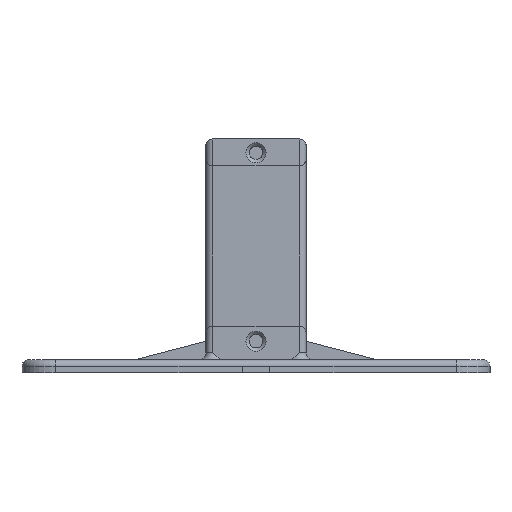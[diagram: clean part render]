
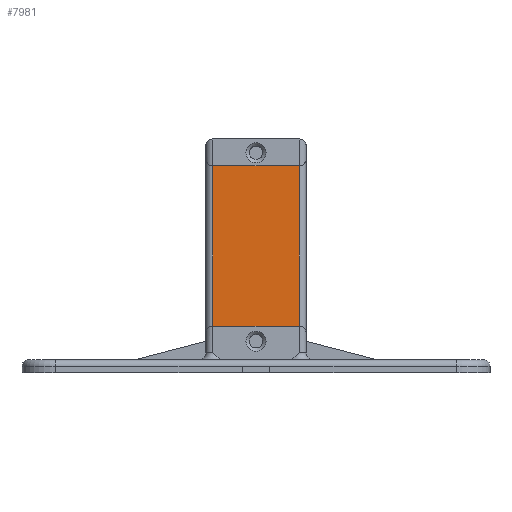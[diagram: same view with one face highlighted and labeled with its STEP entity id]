
A CAD part, left-side view. The second image highlights one B-rep face of the part: STEP entity #7981.
In plain terms, the highlighted planar face has unit normal (-1, 0, 0).
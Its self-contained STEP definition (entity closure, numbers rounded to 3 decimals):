
#3695 = PLANE('',#3696);
#3696 = AXIS2_PLACEMENT_3D('',#3697,#3698,#3699);
#3697 = CARTESIAN_POINT('',(0.,0.,7.));
#3698 = DIRECTION('',(0.,0.,1.));
#3699 = DIRECTION('',(1.,0.,0.));
#5295 = CYLINDRICAL_SURFACE('',#5296,1.);
#5296 = AXIS2_PLACEMENT_3D('',#5297,#5298,#5299);
#5297 = CARTESIAN_POINT('',(10.,6.5,35.));
#5298 = DIRECTION('',(0.,0.,1.));
#5299 = DIRECTION('',(1.,0.,0.));
#6003 = CYLINDRICAL_SURFACE('',#6004,1.);
#6004 = AXIS2_PLACEMENT_3D('',#6005,#6006,#6007);
#6005 = CARTESIAN_POINT('',(10.,-6.5,7.));
#6006 = DIRECTION('',(0.,0.,-1.));
#6007 = DIRECTION('',(-1.,0.,0.));
#6274 = EDGE_CURVE('',#6275,#6277,#6279,.T.);
#6275 = VERTEX_POINT('',#6276);
#6276 = CARTESIAN_POINT('',(9.,-6.5,7.));
#6277 = VERTEX_POINT('',#6278);
#6278 = CARTESIAN_POINT('',(9.,6.5,7.));
#6279 = SURFACE_CURVE('',#6280,(#6284,#6291),.PCURVE_S1.);
#6280 = LINE('',#6281,#6282);
#6281 = CARTESIAN_POINT('',(9.,0.,7.));
#6282 = VECTOR('',#6283,1.);
#6283 = DIRECTION('',(0.,1.,0.));
#6284 = PCURVE('',#3695,#6285);
#6285 = DEFINITIONAL_REPRESENTATION('',(#6286),#6290);
#6286 = LINE('',#6287,#6288);
#6287 = CARTESIAN_POINT('',(9.,0.));
#6288 = VECTOR('',#6289,1.);
#6289 = DIRECTION('',(0.,1.));
#6290 = ( GEOMETRIC_REPRESENTATION_CONTEXT(2) 
PARAMETRIC_REPRESENTATION_CONTEXT() REPRESENTATION_CONTEXT('2D SPACE',''
  ) );
#6291 = PCURVE('',#6292,#6297);
#6292 = PLANE('',#6293);
#6293 = AXIS2_PLACEMENT_3D('',#6294,#6295,#6296);
#6294 = CARTESIAN_POINT('',(9.,0.,35.));
#6295 = DIRECTION('',(-1.,0.,0.));
#6296 = DIRECTION('',(0.,0.,1.));
#6297 = DEFINITIONAL_REPRESENTATION('',(#6298),#6302);
#6298 = LINE('',#6299,#6300);
#6299 = CARTESIAN_POINT('',(-28.,0.));
#6300 = VECTOR('',#6301,1.);
#6301 = DIRECTION('',(0.,1.));
#6302 = ( GEOMETRIC_REPRESENTATION_CONTEXT(2) 
PARAMETRIC_REPRESENTATION_CONTEXT() REPRESENTATION_CONTEXT('2D SPACE',''
  ) );
#6789 = EDGE_CURVE('',#6790,#6277,#6792,.T.);
#6790 = VERTEX_POINT('',#6791);
#6791 = CARTESIAN_POINT('',(9.,6.5,31.));
#6792 = SURFACE_CURVE('',#6793,(#6797,#6804),.PCURVE_S1.);
#6793 = LINE('',#6794,#6795);
#6794 = CARTESIAN_POINT('',(9.,6.5,7.));
#6795 = VECTOR('',#6796,1.);
#6796 = DIRECTION('',(0.,0.,-1.));
#6797 = PCURVE('',#5295,#6798);
#6798 = DEFINITIONAL_REPRESENTATION('',(#6799),#6803);
#6799 = LINE('',#6800,#6801);
#6800 = CARTESIAN_POINT('',(3.142,-28.));
#6801 = VECTOR('',#6802,1.);
#6802 = DIRECTION('',(0.,-1.));
#6803 = ( GEOMETRIC_REPRESENTATION_CONTEXT(2) 
PARAMETRIC_REPRESENTATION_CONTEXT() REPRESENTATION_CONTEXT('2D SPACE',''
  ) );
#6804 = PCURVE('',#6292,#6805);
#6805 = DEFINITIONAL_REPRESENTATION('',(#6806),#6810);
#6806 = LINE('',#6807,#6808);
#6807 = CARTESIAN_POINT('',(-28.,6.5));
#6808 = VECTOR('',#6809,1.);
#6809 = DIRECTION('',(-1.,0.));
#6810 = ( GEOMETRIC_REPRESENTATION_CONTEXT(2) 
PARAMETRIC_REPRESENTATION_CONTEXT() REPRESENTATION_CONTEXT('2D SPACE',''
  ) );
#6899 = PLANE('',#6900);
#6900 = AXIS2_PLACEMENT_3D('',#6901,#6902,#6903);
#6901 = CARTESIAN_POINT('',(-8.002,0.,31.));
#6902 = DIRECTION('',(0.,0.,1.));
#6903 = DIRECTION('',(1.,0.,0.));
#7645 = VERTEX_POINT('',#7646);
#7646 = CARTESIAN_POINT('',(9.,-6.5,31.));
#7712 = EDGE_CURVE('',#7645,#6275,#7713,.T.);
#7713 = SURFACE_CURVE('',#7714,(#7718,#7725),.PCURVE_S1.);
#7714 = LINE('',#7715,#7716);
#7715 = CARTESIAN_POINT('',(9.,-6.5,35.));
#7716 = VECTOR('',#7717,1.);
#7717 = DIRECTION('',(0.,0.,-1.));
#7718 = PCURVE('',#6003,#7719);
#7719 = DEFINITIONAL_REPRESENTATION('',(#7720),#7724);
#7720 = LINE('',#7721,#7722);
#7721 = CARTESIAN_POINT('',(6.283,-28.));
#7722 = VECTOR('',#7723,1.);
#7723 = DIRECTION('',(0.,1.));
#7724 = ( GEOMETRIC_REPRESENTATION_CONTEXT(2) 
PARAMETRIC_REPRESENTATION_CONTEXT() REPRESENTATION_CONTEXT('2D SPACE',''
  ) );
#7725 = PCURVE('',#6292,#7726);
#7726 = DEFINITIONAL_REPRESENTATION('',(#7727),#7731);
#7727 = LINE('',#7728,#7729);
#7728 = CARTESIAN_POINT('',(0.,-6.5));
#7729 = VECTOR('',#7730,1.);
#7730 = DIRECTION('',(-1.,0.));
#7731 = ( GEOMETRIC_REPRESENTATION_CONTEXT(2) 
PARAMETRIC_REPRESENTATION_CONTEXT() REPRESENTATION_CONTEXT('2D SPACE',''
  ) );
#7981 = ADVANCED_FACE('',(#7982),#6292,.T.);
#7982 = FACE_BOUND('',#7983,.T.);
#7983 = EDGE_LOOP('',(#7984,#8007,#8008,#8009,#8010,#8033));
#7984 = ORIENTED_EDGE('',*,*,#7985,.F.);
#7985 = EDGE_CURVE('',#6790,#7986,#7988,.T.);
#7986 = VERTEX_POINT('',#7987);
#7987 = CARTESIAN_POINT('',(9.,4.,31.));
#7988 = SURFACE_CURVE('',#7989,(#7993,#8000),.PCURVE_S1.);
#7989 = LINE('',#7990,#7991);
#7990 = CARTESIAN_POINT('',(9.,0.,31.));
#7991 = VECTOR('',#7992,1.);
#7992 = DIRECTION('',(0.,-1.,0.));
#7993 = PCURVE('',#6292,#7994);
#7994 = DEFINITIONAL_REPRESENTATION('',(#7995),#7999);
#7995 = LINE('',#7996,#7997);
#7996 = CARTESIAN_POINT('',(-4.,0.));
#7997 = VECTOR('',#7998,1.);
#7998 = DIRECTION('',(0.,-1.));
#7999 = ( GEOMETRIC_REPRESENTATION_CONTEXT(2) 
PARAMETRIC_REPRESENTATION_CONTEXT() REPRESENTATION_CONTEXT('2D SPACE',''
  ) );
#8000 = PCURVE('',#6899,#8001);
#8001 = DEFINITIONAL_REPRESENTATION('',(#8002),#8006);
#8002 = LINE('',#8003,#8004);
#8003 = CARTESIAN_POINT('',(17.002,0.));
#8004 = VECTOR('',#8005,1.);
#8005 = DIRECTION('',(0.,-1.));
#8006 = ( GEOMETRIC_REPRESENTATION_CONTEXT(2) 
PARAMETRIC_REPRESENTATION_CONTEXT() REPRESENTATION_CONTEXT('2D SPACE',''
  ) );
#8007 = ORIENTED_EDGE('',*,*,#6789,.T.);
#8008 = ORIENTED_EDGE('',*,*,#6274,.F.);
#8009 = ORIENTED_EDGE('',*,*,#7712,.F.);
#8010 = ORIENTED_EDGE('',*,*,#8011,.F.);
#8011 = EDGE_CURVE('',#8012,#7645,#8014,.T.);
#8012 = VERTEX_POINT('',#8013);
#8013 = CARTESIAN_POINT('',(9.,-4.,31.));
#8014 = SURFACE_CURVE('',#8015,(#8019,#8026),.PCURVE_S1.);
#8015 = LINE('',#8016,#8017);
#8016 = CARTESIAN_POINT('',(9.,0.,31.));
#8017 = VECTOR('',#8018,1.);
#8018 = DIRECTION('',(0.,-1.,0.));
#8019 = PCURVE('',#6292,#8020);
#8020 = DEFINITIONAL_REPRESENTATION('',(#8021),#8025);
#8021 = LINE('',#8022,#8023);
#8022 = CARTESIAN_POINT('',(-4.,0.));
#8023 = VECTOR('',#8024,1.);
#8024 = DIRECTION('',(0.,-1.));
#8025 = ( GEOMETRIC_REPRESENTATION_CONTEXT(2) 
PARAMETRIC_REPRESENTATION_CONTEXT() REPRESENTATION_CONTEXT('2D SPACE',''
  ) );
#8026 = PCURVE('',#6899,#8027);
#8027 = DEFINITIONAL_REPRESENTATION('',(#8028),#8032);
#8028 = LINE('',#8029,#8030);
#8029 = CARTESIAN_POINT('',(17.002,0.));
#8030 = VECTOR('',#8031,1.);
#8031 = DIRECTION('',(0.,-1.));
#8032 = ( GEOMETRIC_REPRESENTATION_CONTEXT(2) 
PARAMETRIC_REPRESENTATION_CONTEXT() REPRESENTATION_CONTEXT('2D SPACE',''
  ) );
#8033 = ORIENTED_EDGE('',*,*,#8034,.F.);
#8034 = EDGE_CURVE('',#7986,#8012,#8035,.T.);
#8035 = SURFACE_CURVE('',#8036,(#8040,#8047),.PCURVE_S1.);
#8036 = LINE('',#8037,#8038);
#8037 = CARTESIAN_POINT('',(9.,0.,31.));
#8038 = VECTOR('',#8039,1.);
#8039 = DIRECTION('',(0.,-1.,0.));
#8040 = PCURVE('',#6292,#8041);
#8041 = DEFINITIONAL_REPRESENTATION('',(#8042),#8046);
#8042 = LINE('',#8043,#8044);
#8043 = CARTESIAN_POINT('',(-4.,0.));
#8044 = VECTOR('',#8045,1.);
#8045 = DIRECTION('',(0.,-1.));
#8046 = ( GEOMETRIC_REPRESENTATION_CONTEXT(2) 
PARAMETRIC_REPRESENTATION_CONTEXT() REPRESENTATION_CONTEXT('2D SPACE',''
  ) );
#8047 = PCURVE('',#8048,#8053);
#8048 = CYLINDRICAL_SURFACE('',#8049,1.);
#8049 = AXIS2_PLACEMENT_3D('',#8050,#8051,#8052);
#8050 = CARTESIAN_POINT('',(9.,0.,32.));
#8051 = DIRECTION('',(0.,-1.,0.));
#8052 = DIRECTION('',(1.,0.,0.));
#8053 = DEFINITIONAL_REPRESENTATION('',(#8054),#8058);
#8054 = LINE('',#8055,#8056);
#8055 = CARTESIAN_POINT('',(4.712,0.));
#8056 = VECTOR('',#8057,1.);
#8057 = DIRECTION('',(0.,1.));
#8058 = ( GEOMETRIC_REPRESENTATION_CONTEXT(2) 
PARAMETRIC_REPRESENTATION_CONTEXT() REPRESENTATION_CONTEXT('2D SPACE',''
  ) );
